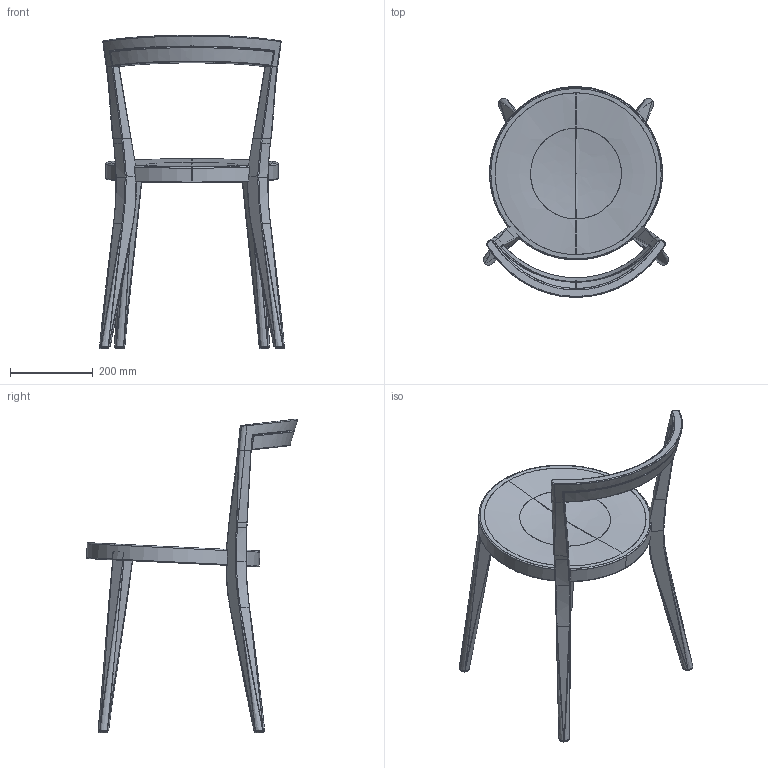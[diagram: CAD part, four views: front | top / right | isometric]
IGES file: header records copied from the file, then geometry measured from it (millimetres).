
Start section: SolidWorks IGES file using analytic representation for surfaces
Global section: file name: C:\Auftragsdaten\AU2510314_GOM_Stuhl_ohne_Armlehne\AU2510314_OUT\AU2510314_REKO_Stuhl_ohne_Armlehne_20250325.IGS; native system: SolidWorks 2024; preprocessor: SolidWorks 2024; author: raso; date: 250325.144035; units: millimetre
Bounding box: 449.18 x 511.41 x 760.48 mm (x, y, z)
Surface area: 747396.5 mm2 (no closed solid volume)
Topology: 0 solids, 0 shells, 293 faces, 3957 edges, 3945 vertices
Faces by surface type: bspline 218, revolution 75
